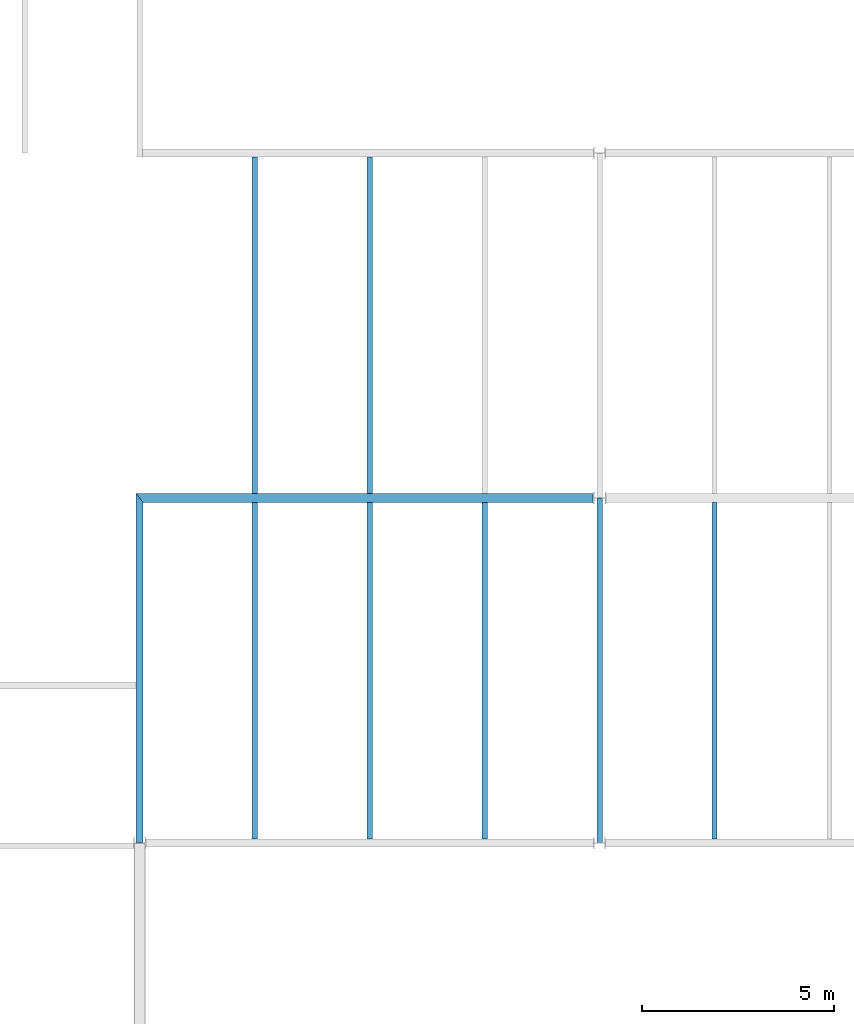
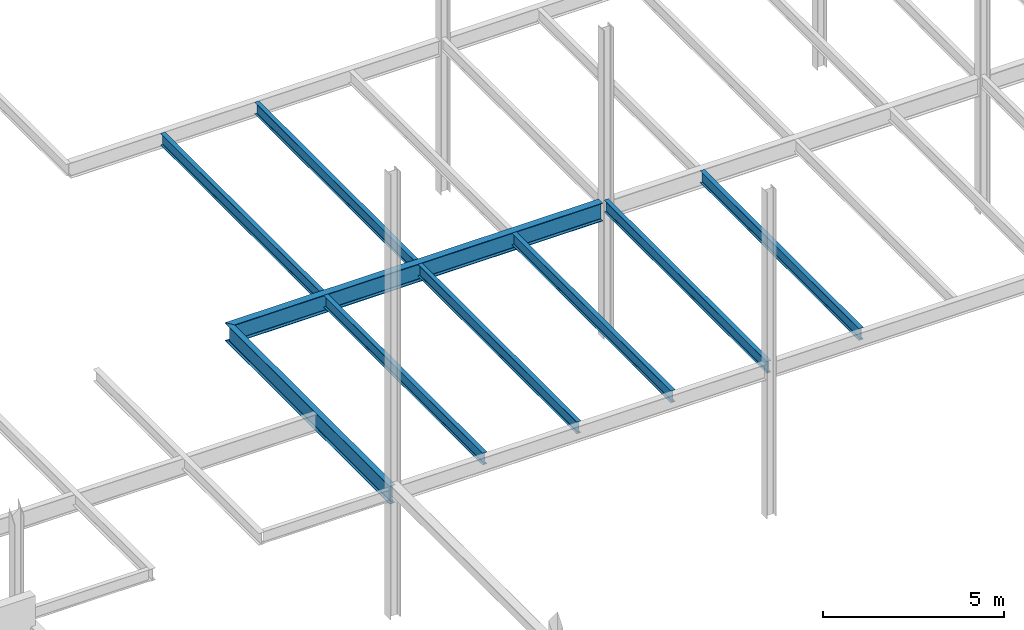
# One storey, part 12 of 19: 9 beams.
"""IFC2X3 building model written with IfcOpenShell, lengths in millimetres."""

from ifc_helpers import new_model, si_unit, origin, place, context, project, spatial, faceted_brep, material, element, save


model = new_model("IFC2X3")

# Units and contexts
context_of_model = context(None, 3, precision=1e-05, world=origin())
ifc_project = project(units=[si_unit("LENGTHUNIT", "METRE", prefix="MILLI")], contexts=[context_of_model])

# Building, storey
building = spatial("IfcBuilding", under=ifc_project, Name="Building", CompositionType="ELEMENT")
storey = spatial("IfcBuildingStorey", under=building, Name="FL2-FRM", CompositionType="ELEMENT")

# Beams
ifc_material_1 = material(Name="A992")
beam_1_placement = place(None, origin())
element("IfcBeam", 1, at=beam_1_placement, inside=storey, material=ifc_material_1, Name="B501", context=context_of_model, shape_type="Brep", body=[
    faceted_brep([(27070.0, 9104.5, 3974.0), (26930.0, 9104.5, 3974.0), (26930.0, 17885.5, 3974.0), (27070.0, 17885.5, 3974.0), (26930.0, 9104.5, 3982.8), (26930.0, 17885.5, 3982.8), (26986.6, 9104.5, 3982.8), (26986.6, 17885.5, 3982.8), (26989.2, 9104.5, 3983.15), (26989.2, 17885.5, 3983.15), (26991.7, 9104.5, 3984.17), (26991.7, 17885.5, 3984.17), (26993.8, 9104.5, 3985.79), (26993.8, 17885.5, 3985.79), (26995.4, 9104.5, 3987.9), (26995.4, 17885.5, 3987.9), (26996.5, 9104.5, 3990.36), (26996.5, 17885.5, 3990.36), (26996.8, 9104.5, 3993.0), (26996.8, 17885.5, 3993.0), (26996.8, 9104.5, 4354.0), (26996.8, 17885.5, 4354.0), (26996.5, 9104.5, 4356.64), (26996.5, 17885.5, 4356.64), (26995.4, 9104.5, 4359.1), (26995.4, 17885.5, 4359.1), (26993.8, 9104.5, 4361.21), (26993.8, 17885.5, 4361.21), (26991.7, 9104.5, 4362.83), (26991.7, 17885.5, 4362.83), (26989.2, 9104.5, 4363.85), (26989.2, 17885.5, 4363.85), (26986.6, 9104.5, 4364.2), (26986.6, 17885.5, 4364.2), (26930.0, 9104.5, 4364.2), (26930.0, 17885.5, 4364.2), (26930.0, 9104.5, 4373.0), (26930.0, 17885.5, 4373.0), (27070.0, 9104.5, 4373.0), (27070.0, 17885.5, 4373.0), (27070.0, 9104.5, 4364.2), (27070.0, 17885.5, 4364.2), (27013.4, 9104.5, 4364.2), (27013.4, 17885.5, 4364.2), (27010.8, 9104.5, 4363.85), (27010.8, 17885.5, 4363.85), (27008.3, 9104.5, 4362.83), (27008.3, 17885.5, 4362.83), (27006.2, 9104.5, 4361.21), (27006.2, 17885.5, 4361.21), (27004.6, 9104.5, 4359.1), (27004.6, 17885.5, 4359.1), (27003.5, 9104.5, 4356.64), (27003.5, 17885.5, 4356.64), (27003.2, 9104.5, 4354.0), (27003.2, 17885.5, 4354.0), (27003.2, 9104.5, 3993.0), (27003.2, 17885.5, 3993.0), (27003.5, 9104.5, 3990.36), (27003.5, 17885.5, 3990.36), (27004.6, 9104.5, 3987.9), (27004.6, 17885.5, 3987.9), (27006.2, 9104.5, 3985.79), (27006.2, 17885.5, 3985.79), (27008.3, 9104.5, 3984.17), (27008.3, 17885.5, 3984.17), (27010.8, 9104.5, 3983.15), (27010.8, 17885.5, 3983.15), (27013.4, 9104.5, 3982.8), (27013.4, 17885.5, 3982.8), (27070.0, 9104.5, 3982.8), (27070.0, 17885.5, 3982.8)], [[[0, 1, 2, 3]], [[1, 4, 5, 2]], [[4, 6, 7, 5]], [[6, 8, 9, 7]], [[8, 10, 11, 9]], [[10, 12, 13, 11]], [[12, 14, 15, 13]], [[14, 16, 17, 15]], [[16, 18, 19, 17]], [[18, 20, 21, 19]], [[20, 22, 23, 21]], [[22, 24, 25, 23]], [[24, 26, 27, 25]], [[26, 28, 29, 27]], [[28, 30, 31, 29]], [[30, 32, 33, 31]], [[32, 34, 35, 33]], [[34, 36, 37, 35]], [[36, 38, 39, 37]], [[38, 40, 41, 39]], [[40, 42, 43, 41]], [[42, 44, 45, 43]], [[44, 46, 47, 45]], [[46, 48, 49, 47]], [[48, 50, 51, 49]], [[50, 52, 53, 51]], [[52, 54, 55, 53]], [[54, 56, 57, 55]], [[56, 58, 59, 57]], [[58, 60, 61, 59]], [[60, 62, 63, 61]], [[62, 64, 65, 63]], [[64, 66, 67, 65]], [[66, 68, 69, 67]], [[68, 70, 71, 69]], [[70, 0, 3, 71]], [[0, 70, 68, 66, 64, 62, 60, 58, 56, 54, 52, 50, 48, 46, 44, 42, 40, 38, 36, 34, 32, 30, 28, 26, 24, 22, 20, 18, 16, 14, 12, 10, 8, 6, 4, 1]], [[3, 2, 5, 7, 9, 11, 13, 15, 17, 19, 21, 23, 25, 27, 29, 31, 33, 35, 37, 39, 41, 43, 45, 47, 49, 51, 53, 55, 57, 59, 61, 63, 65, 67, 69, 71]]]),
])
ifc_material_2 = material(Name="A992")
beam_2_placement = place(None, origin())
element("IfcBeam", 2, at=beam_2_placement, inside=storey, material=ifc_material_2, Name="B504", context=context_of_model, shape_type="Brep", body=[
    faceted_brep([(24070.0, 9004.95, 3974.0), (23930.0, 9004.95, 3974.0), (23930.0, 17991.0, 3974.0), (24070.0, 17991.0, 3974.0), (23930.0, 9004.95, 3982.8), (23930.0, 17991.0, 3982.8), (23986.6, 9004.95, 3982.8), (23986.6, 17991.0, 3982.8), (23989.2, 9004.95, 3983.15), (23989.2, 17991.0, 3983.15), (23991.7, 9004.95, 3984.17), (23991.7, 17991.0, 3984.17), (23993.8, 9004.95, 3985.79), (23993.8, 17991.0, 3985.79), (23995.4, 9004.95, 3987.9), (23995.4, 17991.0, 3987.9), (23996.5, 9004.95, 3990.36), (23996.5, 17991.0, 3990.36), (23996.8, 9004.95, 3993.0), (23996.8, 17991.0, 3993.0), (23996.8, 9004.95, 4354.0), (23996.8, 17991.0, 4354.0), (23996.5, 9004.95, 4356.64), (23996.5, 17991.0, 4356.64), (23995.4, 9004.95, 4359.1), (23995.4, 17991.0, 4359.1), (23993.8, 9004.95, 4361.21), (23993.8, 17991.0, 4361.21), (23991.7, 9004.95, 4362.83), (23991.7, 17991.0, 4362.83), (23989.2, 9004.95, 4363.85), (23989.2, 17991.0, 4363.85), (23986.6, 9004.95, 4364.2), (23986.6, 17991.0, 4364.2), (23930.0, 9004.95, 4364.2), (23930.0, 17991.0, 4364.2), (23930.0, 9004.95, 4373.0), (23930.0, 17991.0, 4373.0), (24070.0, 9004.95, 4373.0), (24070.0, 17991.0, 4373.0), (24070.0, 9004.95, 4364.2), (24070.0, 17991.0, 4364.2), (24013.4, 9004.95, 4364.2), (24013.4, 17991.0, 4364.2), (24010.8, 9004.95, 4363.85), (24010.8, 17991.0, 4363.85), (24008.3, 9004.95, 4362.83), (24008.3, 17991.0, 4362.83), (24006.2, 9004.95, 4361.21), (24006.2, 17991.0, 4361.21), (24004.6, 9004.95, 4359.1), (24004.6, 17991.0, 4359.1), (24003.5, 9004.95, 4356.64), (24003.5, 17991.0, 4356.64), (24003.2, 9004.95, 4354.0), (24003.2, 17991.0, 4354.0), (24003.2, 9004.95, 3993.0), (24003.2, 17991.0, 3993.0), (24003.5, 9004.95, 3990.36), (24003.5, 17991.0, 3990.36), (24004.6, 9004.95, 3987.9), (24004.6, 17991.0, 3987.9), (24006.2, 9004.95, 3985.79), (24006.2, 17991.0, 3985.79), (24008.3, 9004.95, 3984.17), (24008.3, 17991.0, 3984.17), (24010.8, 9004.95, 3983.15), (24010.8, 17991.0, 3983.15), (24013.4, 9004.95, 3982.8), (24013.4, 17991.0, 3982.8), (24070.0, 9004.95, 3982.8), (24070.0, 17991.0, 3982.8)], [[[0, 1, 2, 3]], [[1, 4, 5, 2]], [[4, 6, 7, 5]], [[6, 8, 9, 7]], [[8, 10, 11, 9]], [[10, 12, 13, 11]], [[12, 14, 15, 13]], [[14, 16, 17, 15]], [[16, 18, 19, 17]], [[18, 20, 21, 19]], [[20, 22, 23, 21]], [[22, 24, 25, 23]], [[24, 26, 27, 25]], [[26, 28, 29, 27]], [[28, 30, 31, 29]], [[30, 32, 33, 31]], [[32, 34, 35, 33]], [[34, 36, 37, 35]], [[36, 38, 39, 37]], [[38, 40, 41, 39]], [[40, 42, 43, 41]], [[42, 44, 45, 43]], [[44, 46, 47, 45]], [[46, 48, 49, 47]], [[48, 50, 51, 49]], [[50, 52, 53, 51]], [[52, 54, 55, 53]], [[54, 56, 57, 55]], [[56, 58, 59, 57]], [[58, 60, 61, 59]], [[60, 62, 63, 61]], [[62, 64, 65, 63]], [[64, 66, 67, 65]], [[66, 68, 69, 67]], [[68, 70, 71, 69]], [[70, 0, 3, 71]], [[0, 70, 68, 66, 64, 62, 60, 58, 56, 54, 52, 50, 48, 46, 44, 42, 40, 38, 36, 34, 32, 30, 28, 26, 24, 22, 20, 18, 16, 14, 12, 10, 8, 6, 4, 1]], [[3, 2, 5, 7, 9, 11, 13, 15, 17, 19, 21, 23, 25, 27, 29, 31, 33, 35, 37, 39, 41, 43, 45, 47, 49, 51, 53, 55, 57, 59, 61, 63, 65, 67, 69, 71]]]),
])
ifc_material_3 = material(Name="A992")
beam_3_placement = place(None, origin())
element("IfcBeam", 3, at=beam_3_placement, inside=storey, material=ifc_material_3, Name="B506", context=context_of_model, shape_type="Brep", body=[
    faceted_brep([(18070.0, 9104.5, 3974.0), (17930.0, 9104.5, 3974.0), (17930.0, 17885.5, 3974.0), (18070.0, 17885.5, 3974.0), (17930.0, 9104.5, 3982.8), (17930.0, 17885.5, 3982.8), (17986.6, 9104.5, 3982.8), (17986.6, 17885.5, 3982.8), (17989.2, 9104.5, 3983.15), (17989.2, 17885.5, 3983.15), (17991.7, 9104.5, 3984.17), (17991.7, 17885.5, 3984.17), (17993.8, 9104.5, 3985.79), (17993.8, 17885.5, 3985.79), (17995.4, 9104.5, 3987.9), (17995.4, 17885.5, 3987.9), (17996.5, 9104.5, 3990.36), (17996.5, 17885.5, 3990.36), (17996.8, 9104.5, 3993.0), (17996.8, 17885.5, 3993.0), (17996.8, 9104.5, 4354.0), (17996.8, 17885.5, 4354.0), (17996.5, 9104.5, 4356.64), (17996.5, 17885.5, 4356.64), (17995.4, 9104.5, 4359.1), (17995.4, 17885.5, 4359.1), (17993.8, 9104.5, 4361.21), (17993.8, 17885.5, 4361.21), (17991.7, 9104.5, 4362.83), (17991.7, 17885.5, 4362.83), (17989.2, 9104.5, 4363.85), (17989.2, 17885.5, 4363.85), (17986.6, 9104.5, 4364.2), (17986.6, 17885.5, 4364.2), (17930.0, 9104.5, 4364.2), (17930.0, 17885.5, 4364.2), (17930.0, 9104.5, 4373.0), (17930.0, 17885.5, 4373.0), (18070.0, 9104.5, 4373.0), (18070.0, 17885.5, 4373.0), (18070.0, 9104.5, 4364.2), (18070.0, 17885.5, 4364.2), (18013.4, 9104.5, 4364.2), (18013.4, 17885.5, 4364.2), (18010.8, 9104.5, 4363.85), (18010.8, 17885.5, 4363.85), (18008.3, 9104.5, 4362.83), (18008.3, 17885.5, 4362.83), (18006.2, 9104.5, 4361.21), (18006.2, 17885.5, 4361.21), (18004.6, 9104.5, 4359.1), (18004.6, 17885.5, 4359.1), (18003.5, 9104.5, 4356.64), (18003.5, 17885.5, 4356.64), (18003.2, 9104.5, 4354.0), (18003.2, 17885.5, 4354.0), (18003.2, 9104.5, 3993.0), (18003.2, 17885.5, 3993.0), (18003.5, 9104.5, 3990.36), (18003.5, 17885.5, 3990.36), (18004.6, 9104.5, 3987.9), (18004.6, 17885.5, 3987.9), (18006.2, 9104.5, 3985.79), (18006.2, 17885.5, 3985.79), (18008.3, 9104.5, 3984.17), (18008.3, 17885.5, 3984.17), (18010.8, 9104.5, 3983.15), (18010.8, 17885.5, 3983.15), (18013.4, 9104.5, 3982.8), (18013.4, 17885.5, 3982.8), (18070.0, 9104.5, 3982.8), (18070.0, 17885.5, 3982.8)], [[[0, 1, 2, 3]], [[1, 4, 5, 2]], [[4, 6, 7, 5]], [[6, 8, 9, 7]], [[8, 10, 11, 9]], [[10, 12, 13, 11]], [[12, 14, 15, 13]], [[14, 16, 17, 15]], [[16, 18, 19, 17]], [[18, 20, 21, 19]], [[20, 22, 23, 21]], [[22, 24, 25, 23]], [[24, 26, 27, 25]], [[26, 28, 29, 27]], [[28, 30, 31, 29]], [[30, 32, 33, 31]], [[32, 34, 35, 33]], [[34, 36, 37, 35]], [[36, 38, 39, 37]], [[38, 40, 41, 39]], [[40, 42, 43, 41]], [[42, 44, 45, 43]], [[44, 46, 47, 45]], [[46, 48, 49, 47]], [[48, 50, 51, 49]], [[50, 52, 53, 51]], [[52, 54, 55, 53]], [[54, 56, 57, 55]], [[56, 58, 59, 57]], [[58, 60, 61, 59]], [[60, 62, 63, 61]], [[62, 64, 65, 63]], [[64, 66, 67, 65]], [[66, 68, 69, 67]], [[68, 70, 71, 69]], [[70, 0, 3, 71]], [[0, 70, 68, 66, 64, 62, 60, 58, 56, 54, 52, 50, 48, 46, 44, 42, 40, 38, 36, 34, 32, 30, 28, 26, 24, 22, 20, 18, 16, 14, 12, 10, 8, 6, 4, 1]], [[3, 2, 5, 7, 9, 11, 13, 15, 17, 19, 21, 23, 25, 27, 29, 31, 33, 35, 37, 39, 41, 43, 45, 47, 49, 51, 53, 55, 57, 59, 61, 63, 65, 67, 69, 71]]]),
])
ifc_material_4 = material(Name="A992")
beam_4_placement = place(None, origin())
element("IfcBeam", 4, at=beam_4_placement, inside=storey, material=ifc_material_4, Name="B507", context=context_of_model, shape_type="Brep", body=[
    faceted_brep([(21070.0, 9104.5, 3974.0), (20930.0, 9104.5, 3974.0), (20930.0, 17885.5, 3974.0), (21070.0, 17885.5, 3974.0), (20930.0, 9104.5, 3982.8), (20930.0, 17885.5, 3982.8), (20986.6, 9104.5, 3982.8), (20986.6, 17885.5, 3982.8), (20989.2, 9104.5, 3983.15), (20989.2, 17885.5, 3983.15), (20991.7, 9104.5, 3984.17), (20991.7, 17885.5, 3984.17), (20993.8, 9104.5, 3985.79), (20993.8, 17885.5, 3985.79), (20995.4, 9104.5, 3987.9), (20995.4, 17885.5, 3987.9), (20996.5, 9104.5, 3990.36), (20996.5, 17885.5, 3990.36), (20996.8, 9104.5, 3993.0), (20996.8, 17885.5, 3993.0), (20996.8, 9104.5, 4354.0), (20996.8, 17885.5, 4354.0), (20996.5, 9104.5, 4356.64), (20996.5, 17885.5, 4356.64), (20995.4, 9104.5, 4359.1), (20995.4, 17885.5, 4359.1), (20993.8, 9104.5, 4361.21), (20993.8, 17885.5, 4361.21), (20991.7, 9104.5, 4362.83), (20991.7, 17885.5, 4362.83), (20989.2, 9104.5, 4363.85), (20989.2, 17885.5, 4363.85), (20986.6, 9104.5, 4364.2), (20986.6, 17885.5, 4364.2), (20930.0, 9104.5, 4364.2), (20930.0, 17885.5, 4364.2), (20930.0, 9104.5, 4373.0), (20930.0, 17885.5, 4373.0), (21070.0, 9104.5, 4373.0), (21070.0, 17885.5, 4373.0), (21070.0, 9104.5, 4364.2), (21070.0, 17885.5, 4364.2), (21013.4, 9104.5, 4364.2), (21013.4, 17885.5, 4364.2), (21010.8, 9104.5, 4363.85), (21010.8, 17885.5, 4363.85), (21008.3, 9104.5, 4362.83), (21008.3, 17885.5, 4362.83), (21006.2, 9104.5, 4361.21), (21006.2, 17885.5, 4361.21), (21004.6, 9104.5, 4359.1), (21004.6, 17885.5, 4359.1), (21003.5, 9104.5, 4356.64), (21003.5, 17885.5, 4356.64), (21003.2, 9104.5, 4354.0), (21003.2, 17885.5, 4354.0), (21003.2, 9104.5, 3993.0), (21003.2, 17885.5, 3993.0), (21003.5, 9104.5, 3990.36), (21003.5, 17885.5, 3990.36), (21004.6, 9104.5, 3987.9), (21004.6, 17885.5, 3987.9), (21006.2, 9104.5, 3985.79), (21006.2, 17885.5, 3985.79), (21008.3, 9104.5, 3984.17), (21008.3, 17885.5, 3984.17), (21010.8, 9104.5, 3983.15), (21010.8, 17885.5, 3983.15), (21013.4, 9104.5, 3982.8), (21013.4, 17885.5, 3982.8), (21070.0, 9104.5, 3982.8), (21070.0, 17885.5, 3982.8)], [[[0, 1, 2, 3]], [[1, 4, 5, 2]], [[4, 6, 7, 5]], [[6, 8, 9, 7]], [[8, 10, 11, 9]], [[10, 12, 13, 11]], [[12, 14, 15, 13]], [[14, 16, 17, 15]], [[16, 18, 19, 17]], [[18, 20, 21, 19]], [[20, 22, 23, 21]], [[22, 24, 25, 23]], [[24, 26, 27, 25]], [[26, 28, 29, 27]], [[28, 30, 31, 29]], [[30, 32, 33, 31]], [[32, 34, 35, 33]], [[34, 36, 37, 35]], [[36, 38, 39, 37]], [[38, 40, 41, 39]], [[40, 42, 43, 41]], [[42, 44, 45, 43]], [[44, 46, 47, 45]], [[46, 48, 49, 47]], [[48, 50, 51, 49]], [[50, 52, 53, 51]], [[52, 54, 55, 53]], [[54, 56, 57, 55]], [[56, 58, 59, 57]], [[58, 60, 61, 59]], [[60, 62, 63, 61]], [[62, 64, 65, 63]], [[64, 66, 67, 65]], [[66, 68, 69, 67]], [[68, 70, 71, 69]], [[70, 0, 3, 71]], [[0, 70, 68, 66, 64, 62, 60, 58, 56, 54, 52, 50, 48, 46, 44, 42, 40, 38, 36, 34, 32, 30, 28, 26, 24, 22, 20, 18, 16, 14, 12, 10, 8, 6, 4, 1]], [[3, 2, 5, 7, 9, 11, 13, 15, 17, 19, 21, 23, 25, 27, 29, 31, 33, 35, 37, 39, 41, 43, 45, 47, 49, 51, 53, 55, 57, 59, 61, 63, 65, 67, 69, 71]]]),
])
ifc_material_5 = material(Name="A992")
beam_5_placement = place(None, origin())
element("IfcBeam", 5, at=beam_5_placement, inside=storey, material=ifc_material_5, Name="B529", context=context_of_model, shape_type="Brep", body=[
    faceted_brep([(17930.0, 26895.5, 3974.0), (18070.0, 26895.5, 3974.0), (18070.0, 18114.5, 3974.0), (17930.0, 18114.5, 3974.0), (18070.0, 26895.5, 3982.8), (18070.0, 18114.5, 3982.8), (18013.4, 26895.5, 3982.8), (18013.4, 18114.5, 3982.8), (18010.8, 26895.5, 3983.15), (18010.8, 18114.5, 3983.15), (18008.3, 26895.5, 3984.17), (18008.3, 18114.5, 3984.17), (18006.2, 26895.5, 3985.79), (18006.2, 18114.5, 3985.79), (18004.6, 26895.5, 3987.9), (18004.6, 18114.5, 3987.9), (18003.5, 26895.5, 3990.36), (18003.5, 18114.5, 3990.36), (18003.2, 26895.5, 3993.0), (18003.2, 18114.5, 3993.0), (18003.2, 26895.5, 4354.0), (18003.2, 18114.5, 4354.0), (18003.5, 26895.5, 4356.64), (18003.5, 18114.5, 4356.64), (18004.6, 26895.5, 4359.1), (18004.6, 18114.5, 4359.1), (18006.2, 26895.5, 4361.21), (18006.2, 18114.5, 4361.21), (18008.3, 26895.5, 4362.83), (18008.3, 18114.5, 4362.83), (18010.8, 26895.5, 4363.85), (18010.8, 18114.5, 4363.85), (18013.4, 26895.5, 4364.2), (18013.4, 18114.5, 4364.2), (18070.0, 26895.5, 4364.2), (18070.0, 18114.5, 4364.2), (18070.0, 26895.5, 4373.0), (18070.0, 18114.5, 4373.0), (17930.0, 26895.5, 4373.0), (17930.0, 18114.5, 4373.0), (17930.0, 26895.5, 4364.2), (17930.0, 18114.5, 4364.2), (17986.6, 26895.5, 4364.2), (17986.6, 18114.5, 4364.2), (17989.2, 26895.5, 4363.85), (17989.2, 18114.5, 4363.85), (17991.7, 26895.5, 4362.83), (17991.7, 18114.5, 4362.83), (17993.8, 26895.5, 4361.21), (17993.8, 18114.5, 4361.21), (17995.4, 26895.5, 4359.1), (17995.4, 18114.5, 4359.1), (17996.5, 26895.5, 4356.64), (17996.5, 18114.5, 4356.64), (17996.8, 26895.5, 4354.0), (17996.8, 18114.5, 4354.0), (17996.8, 26895.5, 3993.0), (17996.8, 18114.5, 3993.0), (17996.5, 26895.5, 3990.36), (17996.5, 18114.5, 3990.36), (17995.4, 26895.5, 3987.9), (17995.4, 18114.5, 3987.9), (17993.8, 26895.5, 3985.79), (17993.8, 18114.5, 3985.79), (17991.7, 26895.5, 3984.17), (17991.7, 18114.5, 3984.17), (17989.2, 26895.5, 3983.15), (17989.2, 18114.5, 3983.15), (17986.6, 26895.5, 3982.8), (17986.6, 18114.5, 3982.8), (17930.0, 26895.5, 3982.8), (17930.0, 18114.5, 3982.8)], [[[0, 1, 2, 3]], [[1, 4, 5, 2]], [[4, 6, 7, 5]], [[6, 8, 9, 7]], [[8, 10, 11, 9]], [[10, 12, 13, 11]], [[12, 14, 15, 13]], [[14, 16, 17, 15]], [[16, 18, 19, 17]], [[18, 20, 21, 19]], [[20, 22, 23, 21]], [[22, 24, 25, 23]], [[24, 26, 27, 25]], [[26, 28, 29, 27]], [[28, 30, 31, 29]], [[30, 32, 33, 31]], [[32, 34, 35, 33]], [[34, 36, 37, 35]], [[36, 38, 39, 37]], [[38, 40, 41, 39]], [[40, 42, 43, 41]], [[42, 44, 45, 43]], [[44, 46, 47, 45]], [[46, 48, 49, 47]], [[48, 50, 51, 49]], [[50, 52, 53, 51]], [[52, 54, 55, 53]], [[54, 56, 57, 55]], [[56, 58, 59, 57]], [[58, 60, 61, 59]], [[60, 62, 63, 61]], [[62, 64, 65, 63]], [[64, 66, 67, 65]], [[66, 68, 69, 67]], [[68, 70, 71, 69]], [[70, 0, 3, 71]], [[0, 70, 68, 66, 64, 62, 60, 58, 56, 54, 52, 50, 48, 46, 44, 42, 40, 38, 36, 34, 32, 30, 28, 26, 24, 22, 20, 18, 16, 14, 12, 10, 8, 6, 4, 1]], [[3, 2, 5, 7, 9, 11, 13, 15, 17, 19, 21, 23, 25, 27, 29, 31, 33, 35, 37, 39, 41, 43, 45, 47, 49, 51, 53, 55, 57, 59, 61, 63, 65, 67, 69, 71]]]),
])
ifc_material_6 = material(Name="A992")
beam_6_placement = place(None, origin())
element("IfcBeam", 6, at=beam_6_placement, inside=storey, material=ifc_material_6, Name="Column509", context=context_of_model, shape_type="Brep", body=[
    faceted_brep([(12089.5, 17885.5, 3761.0), (11910.5, 18114.5, 3761.0), (23833.5, 18114.5, 3761.0), (23833.5, 17885.5, 3761.0), (11910.5, 18114.5, 3780.6), (23833.5, 18114.5, 3780.6), (11985.4, 18018.6, 3780.6), (23833.5, 18018.6, 3780.6), (11986.8, 18016.9, 3780.71), (23833.5, 18016.8, 3780.73), (11988.2, 18015.1, 3781.1), (23833.5, 18015.1, 3781.11), (11989.5, 18013.4, 3781.74), (23833.5, 18013.4, 3781.75), (11990.8, 18011.8, 3782.59), (23833.5, 18011.8, 3782.62), (11991.9, 18010.4, 3783.67), (23833.5, 18010.3, 3783.7), (11992.9, 18009.1, 3784.97), (23833.5, 18009.1, 3784.98), (11993.8, 18008.0, 3786.39), (23833.5, 18008.0, 3786.43), (11994.4, 18007.1, 3788.0), (23833.5, 18007.1, 3788.02), (11994.9, 18006.5, 3789.7), (23833.5, 18006.5, 3789.72), (11995.2, 18006.1, 3791.48), (23833.5, 18006.1, 3791.49), (11995.3, 18005.9, 3793.3), (23833.5, 18005.9, 3793.3), (11995.3, 18005.9, 4340.7), (23833.5, 18005.9, 4340.7), (11995.2, 18006.1, 4342.52), (23833.5, 18006.1, 4342.51), (11994.9, 18006.5, 4344.3), (23833.5, 18006.5, 4344.28), (11994.4, 18007.1, 4346.0), (23833.5, 18007.1, 4345.98), (11993.8, 18008.0, 4347.61), (23833.5, 18008.0, 4347.57), (11992.9, 18009.1, 4349.03), (23833.5, 18009.1, 4349.02), (11991.9, 18010.4, 4350.33), (23833.5, 18010.3, 4350.3), (11990.8, 18011.8, 4351.41), (23833.5, 18011.8, 4351.38), (11989.5, 18013.4, 4352.26), (23833.5, 18013.4, 4352.25), (11988.2, 18015.1, 4352.9), (23833.5, 18015.1, 4352.89), (11986.8, 18016.9, 4353.29), (23833.5, 18016.8, 4353.27), (11985.4, 18018.6, 4353.4), (23833.5, 18018.6, 4353.4), (11910.5, 18114.5, 4353.4), (23833.5, 18114.5, 4353.4), (11910.5, 18114.5, 4373.0), (23833.5, 18114.5, 4373.0), (12089.5, 17885.5, 4373.0), (23833.5, 17885.5, 4373.0), (12089.5, 17885.5, 4353.4), (23833.5, 17885.5, 4353.4), (12014.6, 17981.4, 4353.4), (23833.5, 17981.4, 4353.4), (12013.2, 17983.1, 4353.29), (23833.5, 17983.2, 4353.27), (12011.8, 17984.9, 4352.9), (23833.5, 17984.9, 4352.89), (12010.5, 17986.6, 4352.26), (23833.5, 17986.6, 4352.25), (12009.2, 17988.2, 4351.41), (23833.5, 17988.2, 4351.38), (12008.1, 17989.6, 4350.33), (23833.5, 17989.7, 4350.3), (12007.1, 17990.9, 4349.03), (23833.5, 17990.9, 4349.02), (12006.2, 17992.0, 4347.61), (23833.5, 17992.0, 4347.57), (12005.6, 17992.9, 4346.0), (23833.5, 17992.9, 4345.98), (12005.1, 17993.5, 4344.3), (23833.5, 17993.5, 4344.28), (12004.8, 17993.9, 4342.52), (23833.5, 17993.9, 4342.51), (12004.7, 17994.1, 4340.7), (23833.5, 17994.1, 4340.7), (12004.7, 17994.1, 3793.3), (23833.5, 17994.1, 3793.3), (12004.8, 17993.9, 3791.48), (23833.5, 17993.9, 3791.49), (12005.1, 17993.5, 3789.7), (23833.5, 17993.5, 3789.72), (12005.6, 17992.9, 3788.0), (23833.5, 17992.9, 3788.02), (12006.2, 17992.0, 3786.39), (23833.5, 17992.0, 3786.43), (12007.1, 17990.9, 3784.97), (23833.5, 17990.9, 3784.98), (12008.1, 17989.6, 3783.67), (23833.5, 17989.7, 3783.7), (12009.2, 17988.2, 3782.59), (23833.5, 17988.2, 3782.62), (12010.5, 17986.6, 3781.74), (23833.5, 17986.6, 3781.75), (12011.8, 17984.9, 3781.1), (23833.5, 17984.9, 3781.11), (12013.2, 17983.1, 3780.71), (23833.5, 17983.2, 3780.73), (12014.6, 17981.4, 3780.6), (23833.5, 17981.4, 3780.6), (12089.5, 17885.5, 3780.6), (23833.5, 17885.5, 3780.6)], [[[0, 1, 2, 3]], [[1, 4, 5, 2]], [[4, 6, 7, 5]], [[6, 8, 9, 7]], [[8, 10, 11, 9]], [[10, 12, 13, 11]], [[12, 14, 15, 13]], [[14, 16, 17, 15]], [[16, 18, 19, 17]], [[18, 20, 21, 19]], [[20, 22, 23, 21]], [[22, 24, 25, 23]], [[24, 26, 27, 25]], [[26, 28, 29, 27]], [[28, 30, 31, 29]], [[30, 32, 33, 31]], [[32, 34, 35, 33]], [[34, 36, 37, 35]], [[36, 38, 39, 37]], [[38, 40, 41, 39]], [[40, 42, 43, 41]], [[42, 44, 45, 43]], [[44, 46, 47, 45]], [[46, 48, 49, 47]], [[48, 50, 51, 49]], [[50, 52, 53, 51]], [[52, 54, 55, 53]], [[54, 56, 57, 55]], [[56, 58, 59, 57]], [[58, 60, 61, 59]], [[60, 62, 63, 61]], [[62, 64, 65, 63]], [[64, 66, 67, 65]], [[66, 68, 69, 67]], [[68, 70, 71, 69]], [[70, 72, 73, 71]], [[72, 74, 75, 73]], [[74, 76, 77, 75]], [[76, 78, 79, 77]], [[78, 80, 81, 79]], [[80, 82, 83, 81]], [[82, 84, 85, 83]], [[84, 86, 87, 85]], [[86, 88, 89, 87]], [[88, 90, 91, 89]], [[90, 92, 93, 91]], [[92, 94, 95, 93]], [[94, 96, 97, 95]], [[96, 98, 99, 97]], [[98, 100, 101, 99]], [[100, 102, 103, 101]], [[102, 104, 105, 103]], [[104, 106, 107, 105]], [[106, 108, 109, 107]], [[108, 110, 111, 109]], [[110, 0, 3, 111]], [[0, 110, 108, 106, 104, 102, 100, 98, 96, 94, 92, 90, 88, 86, 84, 82, 80, 78, 76, 74, 72, 70, 68, 66, 64, 62, 60, 58, 56, 54, 52, 50, 48, 46, 44, 42, 40, 38, 36, 34, 32, 30, 28, 26, 24, 22, 20, 18, 16, 14, 12, 10, 8, 6, 4, 1]], [[3, 2, 5, 7, 9, 11, 13, 15, 17, 19, 21, 23, 25, 27, 29, 31, 33, 35, 37, 39, 41, 43, 45, 47, 49, 51, 53, 55, 57, 59, 61, 63, 65, 67, 69, 71, 73, 75, 77, 79, 81, 83, 85, 87, 89, 91, 93, 95, 97, 99, 101, 103, 105, 107, 109, 111]]]),
])
ifc_material_7 = material(Name="A992")
beam_7_placement = place(None, origin())
element("IfcBeam", 7, at=beam_7_placement, inside=storey, material=ifc_material_7, Name="B609", context=context_of_model, shape_type="Brep", body=[
    faceted_brep([(11910.5, 18114.5, 3770.0), (12089.5, 17885.5, 3770.0), (12089.5, 9009.0, 3770.0), (11910.5, 9009.0, 3770.0), (12089.5, 17885.5, 3785.0), (12089.5, 9009.0, 3785.0), (12020.6, 17973.6, 3785.0), (12020.6, 9009.0, 3785.0), (12018.5, 17976.3, 3785.11), (12018.5, 9009.0, 3785.16), (12016.4, 17979.0, 3785.58), (12016.4, 9009.0, 3785.62), (12014.4, 17981.6, 3786.37), (12014.3, 9009.0, 3786.37), (12012.5, 17984.0, 3787.35), (12012.4, 9009.0, 3787.41), (12010.7, 17986.3, 3788.64), (12010.7, 9009.0, 3788.71), (12009.2, 17988.2, 3790.2), (12009.2, 9009.0, 3790.25), (12007.9, 17989.9, 3791.86), (12007.9, 9009.0, 3791.98), (12006.8, 17991.3, 3793.83), (12006.8, 9009.0, 3793.89), (12006.1, 17992.2, 3795.87), (12006.1, 9009.0, 3795.92), (12005.7, 17992.7, 3797.99), (12005.6, 9009.0, 3798.04), (12005.4, 17993.0, 3800.2), (12005.4, 9009.0, 3800.2), (12005.4, 17993.0, 4342.8), (12005.4, 9009.0, 4342.8), (12005.7, 17992.7, 4345.01), (12005.6, 9009.0, 4344.96), (12006.1, 17992.2, 4347.13), (12006.1, 9009.0, 4347.08), (12006.8, 17991.3, 4349.17), (12006.8, 9009.0, 4349.11), (12007.9, 17989.9, 4351.14), (12007.9, 9009.0, 4351.02), (12009.2, 17988.2, 4352.8), (12009.2, 9009.0, 4352.75), (12010.7, 17986.3, 4354.36), (12010.7, 9009.0, 4354.29), (12012.5, 17984.0, 4355.65), (12012.4, 9009.0, 4355.59), (12014.4, 17981.6, 4356.63), (12014.3, 9009.0, 4356.63), (12016.4, 17979.0, 4357.42), (12016.4, 9009.0, 4357.38), (12018.5, 17976.3, 4357.89), (12018.5, 9009.0, 4357.84), (12020.6, 17973.6, 4358.0), (12020.6, 9009.0, 4358.0), (12089.5, 17885.5, 4358.0), (12089.5, 9009.0, 4358.0), (12089.5, 17885.5, 4373.0), (12089.5, 9009.0, 4373.0), (11910.5, 18114.5, 4373.0), (11910.5, 9009.0, 4373.0), (11910.5, 18114.5, 4358.0), (11910.5, 9009.0, 4358.0), (11979.4, 18026.4, 4358.0), (11979.4, 9009.0, 4358.0), (11981.5, 18023.7, 4357.89), (11981.5, 9009.0, 4357.84), (11983.6, 18021.0, 4357.42), (11983.6, 9009.0, 4357.38), (11985.6, 18018.4, 4356.63), (11985.7, 9009.0, 4356.63), (11987.5, 18016.0, 4355.65), (11987.6, 9009.0, 4355.59), (11989.3, 18013.7, 4354.36), (11989.3, 9009.0, 4354.29), (11990.8, 18011.8, 4352.8), (11990.8, 9009.0, 4352.75), (11992.1, 18010.1, 4351.14), (11992.1, 9009.0, 4351.02), (11993.2, 18008.7, 4349.17), (11993.2, 9009.0, 4349.11), (11993.9, 18007.8, 4347.13), (11993.9, 9009.0, 4347.08), (11994.3, 18007.3, 4345.01), (11994.4, 9009.0, 4344.96), (11994.6, 18007.0, 4342.8), (11994.6, 9009.0, 4342.8), (11994.6, 18007.0, 3800.2), (11994.6, 9009.0, 3800.2), (11994.3, 18007.3, 3797.99), (11994.4, 9009.0, 3798.04), (11993.9, 18007.8, 3795.87), (11993.9, 9009.0, 3795.92), (11993.2, 18008.7, 3793.83), (11993.2, 9009.0, 3793.89), (11992.1, 18010.1, 3791.86), (11992.1, 9009.0, 3791.98), (11990.8, 18011.8, 3790.2), (11990.8, 9009.0, 3790.25), (11989.3, 18013.7, 3788.64), (11989.3, 9009.0, 3788.71), (11987.5, 18016.0, 3787.35), (11987.6, 9009.0, 3787.41), (11985.6, 18018.4, 3786.37), (11985.7, 9009.0, 3786.37), (11983.6, 18021.0, 3785.58), (11983.6, 9009.0, 3785.62), (11981.5, 18023.7, 3785.11), (11981.5, 9009.0, 3785.16), (11979.4, 18026.4, 3785.0), (11979.4, 9009.0, 3785.0), (11910.5, 18114.5, 3785.0), (11910.5, 9009.0, 3785.0)], [[[0, 1, 2, 3]], [[1, 4, 5, 2]], [[4, 6, 7, 5]], [[6, 8, 9, 7]], [[8, 10, 11, 9]], [[10, 12, 13, 11]], [[12, 14, 15, 13]], [[14, 16, 17, 15]], [[16, 18, 19, 17]], [[18, 20, 21, 19]], [[20, 22, 23, 21]], [[22, 24, 25, 23]], [[24, 26, 27, 25]], [[26, 28, 29, 27]], [[28, 30, 31, 29]], [[30, 32, 33, 31]], [[32, 34, 35, 33]], [[34, 36, 37, 35]], [[36, 38, 39, 37]], [[38, 40, 41, 39]], [[40, 42, 43, 41]], [[42, 44, 45, 43]], [[44, 46, 47, 45]], [[46, 48, 49, 47]], [[48, 50, 51, 49]], [[50, 52, 53, 51]], [[52, 54, 55, 53]], [[54, 56, 57, 55]], [[56, 58, 59, 57]], [[58, 60, 61, 59]], [[60, 62, 63, 61]], [[62, 64, 65, 63]], [[64, 66, 67, 65]], [[66, 68, 69, 67]], [[68, 70, 71, 69]], [[70, 72, 73, 71]], [[72, 74, 75, 73]], [[74, 76, 77, 75]], [[76, 78, 79, 77]], [[78, 80, 81, 79]], [[80, 82, 83, 81]], [[82, 84, 85, 83]], [[84, 86, 87, 85]], [[86, 88, 89, 87]], [[88, 90, 91, 89]], [[90, 92, 93, 91]], [[92, 94, 95, 93]], [[94, 96, 97, 95]], [[96, 98, 99, 97]], [[98, 100, 101, 99]], [[100, 102, 103, 101]], [[102, 104, 105, 103]], [[104, 106, 107, 105]], [[106, 108, 109, 107]], [[108, 110, 111, 109]], [[110, 0, 3, 111]], [[0, 110, 108, 106, 104, 102, 100, 98, 96, 94, 92, 90, 88, 86, 84, 82, 80, 78, 76, 74, 72, 70, 68, 66, 64, 62, 60, 58, 56, 54, 52, 50, 48, 46, 44, 42, 40, 38, 36, 34, 32, 30, 28, 26, 24, 22, 20, 18, 16, 14, 12, 10, 8, 6, 4, 1]], [[3, 2, 5, 7, 9, 11, 13, 15, 17, 19, 21, 23, 25, 27, 29, 31, 33, 35, 37, 39, 41, 43, 45, 47, 49, 51, 53, 55, 57, 59, 61, 63, 65, 67, 69, 71, 73, 75, 77, 79, 81, 83, 85, 87, 89, 91, 93, 95, 97, 99, 101, 103, 105, 107, 109, 111]]]),
])
ifc_material_8 = material(Name="A992")
beam_8_placement = place(None, origin())
element("IfcBeam", 8, at=beam_8_placement, inside=storey, material=ifc_material_8, Name="B800", context=context_of_model, shape_type="Brep", body=[
    faceted_brep([(14930.0, 17885.5, 3974.0), (15070.0, 17885.5, 3974.0), (15070.0, 9104.5, 3974.0), (14930.0, 9104.5, 3974.0), (15070.0, 17885.5, 3982.8), (15070.0, 9104.5, 3982.8), (15013.4, 17885.5, 3982.8), (15013.4, 9104.5, 3982.8), (15010.8, 17885.5, 3983.15), (15010.8, 9104.5, 3983.15), (15008.3, 17885.5, 3984.17), (15008.3, 9104.5, 3984.17), (15006.2, 17885.5, 3985.79), (15006.2, 9104.5, 3985.79), (15004.6, 17885.5, 3987.9), (15004.6, 9104.5, 3987.9), (15003.5, 17885.5, 3990.36), (15003.5, 9104.5, 3990.36), (15003.2, 17885.5, 3993.0), (15003.2, 9104.5, 3993.0), (15003.2, 17885.5, 4354.0), (15003.2, 9104.5, 4354.0), (15003.5, 17885.5, 4356.64), (15003.5, 9104.5, 4356.64), (15004.6, 17885.5, 4359.1), (15004.6, 9104.5, 4359.1), (15006.2, 17885.5, 4361.21), (15006.2, 9104.5, 4361.21), (15008.3, 17885.5, 4362.83), (15008.3, 9104.5, 4362.83), (15010.8, 17885.5, 4363.85), (15010.8, 9104.5, 4363.85), (15013.4, 17885.5, 4364.2), (15013.4, 9104.5, 4364.2), (15070.0, 17885.5, 4364.2), (15070.0, 9104.5, 4364.2), (15070.0, 17885.5, 4373.0), (15070.0, 9104.5, 4373.0), (14930.0, 17885.5, 4373.0), (14930.0, 9104.5, 4373.0), (14930.0, 17885.5, 4364.2), (14930.0, 9104.5, 4364.2), (14986.6, 17885.5, 4364.2), (14986.6, 9104.5, 4364.2), (14989.2, 17885.5, 4363.85), (14989.2, 9104.5, 4363.85), (14991.7, 17885.5, 4362.83), (14991.7, 9104.5, 4362.83), (14993.8, 17885.5, 4361.21), (14993.8, 9104.5, 4361.21), (14995.4, 17885.5, 4359.1), (14995.4, 9104.5, 4359.1), (14996.5, 17885.5, 4356.64), (14996.5, 9104.5, 4356.64), (14996.8, 17885.5, 4354.0), (14996.8, 9104.5, 4354.0), (14996.8, 17885.5, 3993.0), (14996.8, 9104.5, 3993.0), (14996.5, 17885.5, 3990.36), (14996.5, 9104.5, 3990.36), (14995.4, 17885.5, 3987.9), (14995.4, 9104.5, 3987.9), (14993.8, 17885.5, 3985.79), (14993.8, 9104.5, 3985.79), (14991.7, 17885.5, 3984.17), (14991.7, 9104.5, 3984.17), (14989.2, 17885.5, 3983.15), (14989.2, 9104.5, 3983.15), (14986.6, 17885.5, 3982.8), (14986.6, 9104.5, 3982.8), (14930.0, 17885.5, 3982.8), (14930.0, 9104.5, 3982.8)], [[[0, 1, 2, 3]], [[1, 4, 5, 2]], [[4, 6, 7, 5]], [[6, 8, 9, 7]], [[8, 10, 11, 9]], [[10, 12, 13, 11]], [[12, 14, 15, 13]], [[14, 16, 17, 15]], [[16, 18, 19, 17]], [[18, 20, 21, 19]], [[20, 22, 23, 21]], [[22, 24, 25, 23]], [[24, 26, 27, 25]], [[26, 28, 29, 27]], [[28, 30, 31, 29]], [[30, 32, 33, 31]], [[32, 34, 35, 33]], [[34, 36, 37, 35]], [[36, 38, 39, 37]], [[38, 40, 41, 39]], [[40, 42, 43, 41]], [[42, 44, 45, 43]], [[44, 46, 47, 45]], [[46, 48, 49, 47]], [[48, 50, 51, 49]], [[50, 52, 53, 51]], [[52, 54, 55, 53]], [[54, 56, 57, 55]], [[56, 58, 59, 57]], [[58, 60, 61, 59]], [[60, 62, 63, 61]], [[62, 64, 65, 63]], [[64, 66, 67, 65]], [[66, 68, 69, 67]], [[68, 70, 71, 69]], [[70, 0, 3, 71]], [[0, 70, 68, 66, 64, 62, 60, 58, 56, 54, 52, 50, 48, 46, 44, 42, 40, 38, 36, 34, 32, 30, 28, 26, 24, 22, 20, 18, 16, 14, 12, 10, 8, 6, 4, 1]], [[3, 2, 5, 7, 9, 11, 13, 15, 17, 19, 21, 23, 25, 27, 29, 31, 33, 35, 37, 39, 41, 43, 45, 47, 49, 51, 53, 55, 57, 59, 61, 63, 65, 67, 69, 71]]]),
])
ifc_material_9 = material(Name="A992")
beam_9_placement = place(None, origin())
element("IfcBeam", 9, at=beam_9_placement, inside=storey, material=ifc_material_9, Name="B1109", context=context_of_model, shape_type="Brep", body=[
    faceted_brep([(14930.0, 26895.5, 3974.0), (15070.0, 26895.5, 3974.0), (15070.0, 18114.5, 3974.0), (14930.0, 18114.5, 3974.0), (15070.0, 26895.5, 3982.8), (15070.0, 18114.5, 3982.8), (15013.4, 26895.5, 3982.8), (15013.4, 18114.5, 3982.8), (15010.8, 26895.5, 3983.15), (15010.8, 18114.5, 3983.15), (15008.3, 26895.5, 3984.17), (15008.3, 18114.5, 3984.17), (15006.2, 26895.5, 3985.79), (15006.2, 18114.5, 3985.79), (15004.6, 26895.5, 3987.9), (15004.6, 18114.5, 3987.9), (15003.5, 26895.5, 3990.36), (15003.5, 18114.5, 3990.36), (15003.2, 26895.5, 3993.0), (15003.2, 18114.5, 3993.0), (15003.2, 26895.5, 4354.0), (15003.2, 18114.5, 4354.0), (15003.5, 26895.5, 4356.64), (15003.5, 18114.5, 4356.64), (15004.6, 26895.5, 4359.1), (15004.6, 18114.5, 4359.1), (15006.2, 26895.5, 4361.21), (15006.2, 18114.5, 4361.21), (15008.3, 26895.5, 4362.83), (15008.3, 18114.5, 4362.83), (15010.8, 26895.5, 4363.85), (15010.8, 18114.5, 4363.85), (15013.4, 26895.5, 4364.2), (15013.4, 18114.5, 4364.2), (15070.0, 26895.5, 4364.2), (15070.0, 18114.5, 4364.2), (15070.0, 26895.5, 4373.0), (15070.0, 18114.5, 4373.0), (14930.0, 26895.5, 4373.0), (14930.0, 18114.5, 4373.0), (14930.0, 26895.5, 4364.2), (14930.0, 18114.5, 4364.2), (14986.6, 26895.5, 4364.2), (14986.6, 18114.5, 4364.2), (14989.2, 26895.5, 4363.85), (14989.2, 18114.5, 4363.85), (14991.7, 26895.5, 4362.83), (14991.7, 18114.5, 4362.83), (14993.8, 26895.5, 4361.21), (14993.8, 18114.5, 4361.21), (14995.4, 26895.5, 4359.1), (14995.4, 18114.5, 4359.1), (14996.5, 26895.5, 4356.64), (14996.5, 18114.5, 4356.64), (14996.8, 26895.5, 4354.0), (14996.8, 18114.5, 4354.0), (14996.8, 26895.5, 3993.0), (14996.8, 18114.5, 3993.0), (14996.5, 26895.5, 3990.36), (14996.5, 18114.5, 3990.36), (14995.4, 26895.5, 3987.9), (14995.4, 18114.5, 3987.9), (14993.8, 26895.5, 3985.79), (14993.8, 18114.5, 3985.79), (14991.7, 26895.5, 3984.17), (14991.7, 18114.5, 3984.17), (14989.2, 26895.5, 3983.15), (14989.2, 18114.5, 3983.15), (14986.6, 26895.5, 3982.8), (14986.6, 18114.5, 3982.8), (14930.0, 26895.5, 3982.8), (14930.0, 18114.5, 3982.8)], [[[0, 1, 2, 3]], [[1, 4, 5, 2]], [[4, 6, 7, 5]], [[6, 8, 9, 7]], [[8, 10, 11, 9]], [[10, 12, 13, 11]], [[12, 14, 15, 13]], [[14, 16, 17, 15]], [[16, 18, 19, 17]], [[18, 20, 21, 19]], [[20, 22, 23, 21]], [[22, 24, 25, 23]], [[24, 26, 27, 25]], [[26, 28, 29, 27]], [[28, 30, 31, 29]], [[30, 32, 33, 31]], [[32, 34, 35, 33]], [[34, 36, 37, 35]], [[36, 38, 39, 37]], [[38, 40, 41, 39]], [[40, 42, 43, 41]], [[42, 44, 45, 43]], [[44, 46, 47, 45]], [[46, 48, 49, 47]], [[48, 50, 51, 49]], [[50, 52, 53, 51]], [[52, 54, 55, 53]], [[54, 56, 57, 55]], [[56, 58, 59, 57]], [[58, 60, 61, 59]], [[60, 62, 63, 61]], [[62, 64, 65, 63]], [[64, 66, 67, 65]], [[66, 68, 69, 67]], [[68, 70, 71, 69]], [[70, 0, 3, 71]], [[0, 70, 68, 66, 64, 62, 60, 58, 56, 54, 52, 50, 48, 46, 44, 42, 40, 38, 36, 34, 32, 30, 28, 26, 24, 22, 20, 18, 16, 14, 12, 10, 8, 6, 4, 1]], [[3, 2, 5, 7, 9, 11, 13, 15, 17, 19, 21, 23, 25, 27, 29, 31, 33, 35, 37, 39, 41, 43, 45, 47, 49, 51, 53, 55, 57, 59, 61, 63, 65, 67, 69, 71]]]),
])

save(model, "model.ifc")
